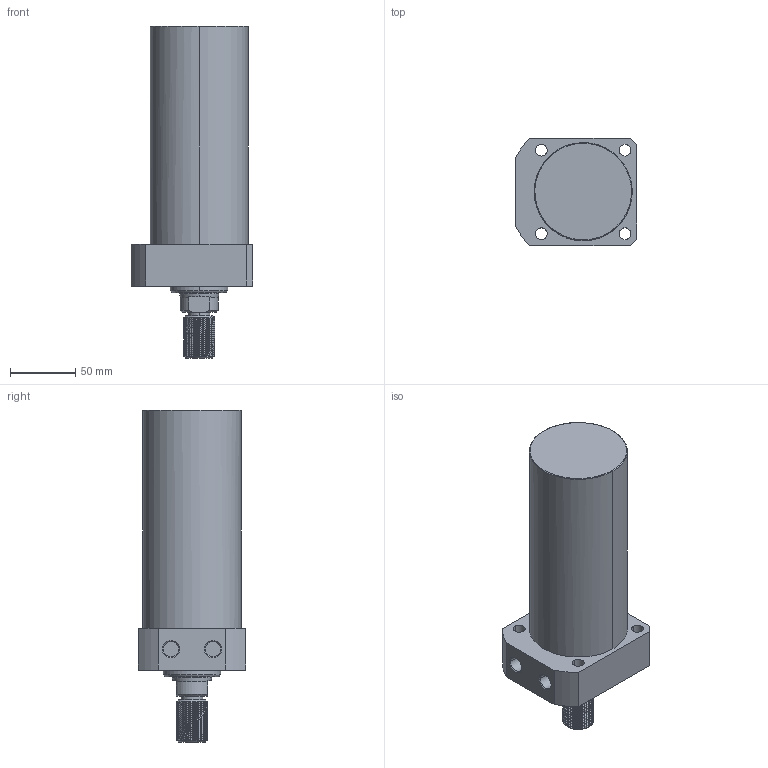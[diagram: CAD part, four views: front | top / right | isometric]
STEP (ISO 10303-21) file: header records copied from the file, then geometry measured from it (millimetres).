
FILE_DESCRIPTION((' '),'2;1');
FILE_NAME( 'TLLR-075CT-130.STEP.stp', '2025-10-24T16:35:13', (' '), ('--- Datakit www.datakit.com---'), ' Datakit CrossCadWare V2024.1 Dec 21 2023', 'Mastercam 2025', ' ');
FILE_SCHEMA(('AUTOMOTIVE_DESIGN { 1 0 10303 214 1 1 1 1 }'));
Length unit declared in the file: millimetre
Products named in the file (1): TLLR-075CT-130
Bounding box: 93 x 82 x 254 mm (x, y, z)
Volume: 994805.3 mm3; surface area: 75398.1 mm2
Topology: 1 solids, 1 shells, 109 faces, 397 edges, 299 vertices
Faces by surface type: cylinder 69, plane 21, cone 15, torus 2, bspline 2
Entity records: 12981 total; most frequent: CARTESIAN_POINT 9611, ORIENTED_EDGE 794, DIRECTION 547, EDGE_CURVE 397, VERTEX_POINT 299, AXIS2_PLACEMENT_3D 221, B_SPLINE_CURVE_WITH_KNOTS 179, EDGE_LOOP 126
